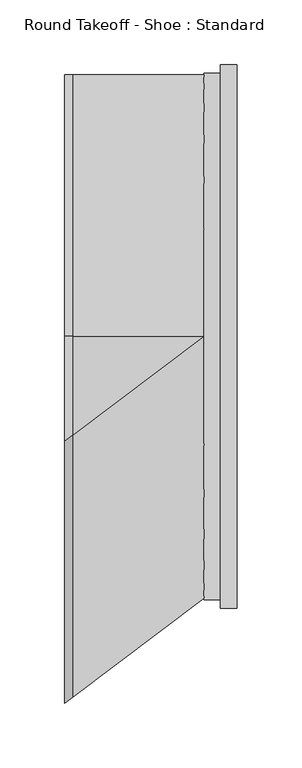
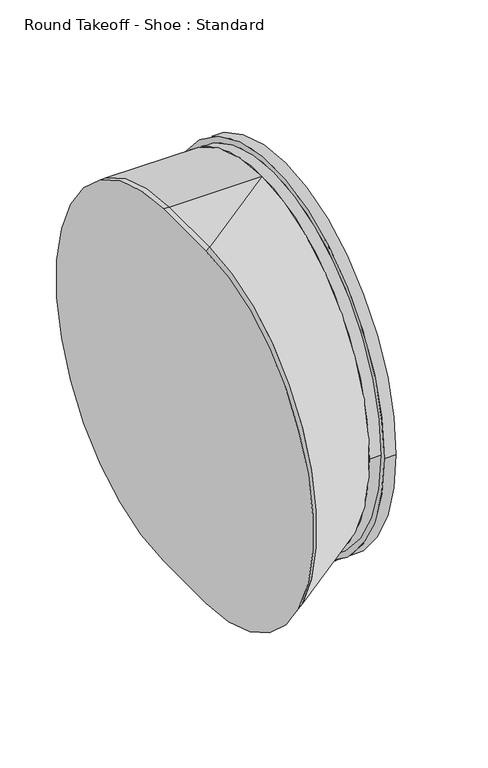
"""IFC4 building model written with IfcOpenShell, lengths in millimetres: duct fitting geometry, Round Takeoff - Shoe : Standard."""

from ifc_helpers import new_model, si_unit, point, frame, origin, place, context, project, spatial, circle_curve, trimmed, source, transform, mapped, element, save
from ifc_brep_helpers import plane_surface, cylinder_surface, extruded_surface, advanced_brep


def round_takeoff_shoe_standard_4355591a(model_context):
    return source(origin(), model_context, "Body", "AdvancedBrep", [
        advanced_brep(
        [(127.0, -209.55, 0.0), (127.0, 209.55, 0.0), (101.6, -203.2, 0.0), (101.6, 203.2, 0.0), (114.0743747, 203.2, 0.0), (114.0743747, -203.2, 0.0), (114.0743747, -209.55, 0.0), (114.0743747, 209.55, 0.0)],
        [
            (0, 1, circle_curve(frame((127.0, 0.0, 0.0), z_axis=(1.0, 0.0, 0.0), x_axis=(0.0, 1.0, 0.0)), 209.55)),
            (1, 0, circle_curve(frame((127.0, 0.0, 0.0), z_axis=(1.0, 0.0, 0.0), x_axis=(0.0, 1.0, 0.0)), 209.55)),
            (2, 3, circle_curve(frame((101.6, 0.0, 0.0), z_axis=(-1.0, 0.0, 0.0), x_axis=(0.0, 1.0, 0.0)), 203.2)),
            (3, 2, circle_curve(frame((101.6, 0.0, 0.0), z_axis=(-1.0, 0.0, 0.0), x_axis=(0.0, 1.0, 0.0)), 203.2)),
            (3, 4),
            (4, 5, circle_curve(frame((114.0743747, 0.0, 0.0), z_axis=(-1.0, 0.0, 0.0), x_axis=(0.0, 1.0, 0.0)), 203.2)),
            (5, 2),
            (5, 4, circle_curve(frame((114.0743747, 0.0, 0.0), z_axis=(-1.0, 0.0, 0.0), x_axis=(0.0, 1.0, 0.0)), 203.2)),
            (6, 7, circle_curve(frame((114.0743747, 0.0, 0.0), z_axis=(-1.0, 0.0, 0.0), x_axis=(0.0, 1.0, 0.0)), 209.55)),
            (7, 6, circle_curve(frame((114.0743747, 0.0, 0.0), z_axis=(-1.0, 0.0, 0.0), x_axis=(0.0, 1.0, 0.0)), 209.55)),
            (0, 6),
            (7, 1),
        ],
        [
            plane_surface(frame((127.0, 203.2, 0.0), z_axis=(1.0, 0.0, 0.0), x_axis=(0.0, 0.0, 1.0))),
            plane_surface(frame((101.6, 203.2, 0.0), z_axis=(-1.0, 0.0, 0.0), x_axis=(0.0, 0.0, -1.0))),
            cylinder_surface(frame((101.6, 0.0, 0.0), z_axis=(1.0, 0.0, 0.0), x_axis=(0.0, 1.0, 0.0)), 203.2),
            plane_surface(frame((114.0743747, 209.55, 0.0), z_axis=(-1.0, 0.0, 0.0), x_axis=(0.0, 0.0, -1.0))),
            cylinder_surface(frame((114.0743747, 0.0, 0.0), z_axis=(1.0, 0.0, 0.0), x_axis=(0.0, 1.0, 0.0)), 209.55),
        ],
        [
            (0, [[1, 2]]),
            (1, [[3, 4]]),
            (2, [[-4, 5, 6, 7]]),
            (2, [[-3, -7, 8, -5]]),
            (3, [[9, 10], [-6, -8]]),
            (4, [[-1, 11, -10, 12]]),
            (4, [[-2, -12, -9, -11]]),
        ],
    ),
        advanced_brep(
        [(-6.096, 0.0, -203.2), (-6.096, -80.772, -203.2), (-6.096, -80.772, 203.2), (-6.096, 0.0, 203.2), (0.0, 0.0, -203.2), (0.0, 0.0, 203.2), (0.0, -76.2, 203.2), (0.0, -76.2, -203.2)],
        [
            (0, 1),
            (1, 2, circle_curve(frame((-6.096, -80.772, 0.0), z_axis=(-1.0, 0.0, 0.0), x_axis=(0.0, 1.0, 0.0)), 203.2)),
            (2, 3),
            (3, 0, circle_curve(frame((-6.096, 0.0, 0.0), z_axis=(-1.0, 0.0, 0.0), x_axis=(0.0, 1.0, 0.0)), 203.2)),
            (4, 5, circle_curve(frame((0.0, 0.0, 0.0), z_axis=(1.0, 0.0, 0.0), x_axis=(0.0, 1.0, 0.0)), 203.2)),
            (5, 6),
            (6, 7, circle_curve(frame((0.0, -76.2, 0.0), z_axis=(1.0, 0.0, 0.0), x_axis=(0.0, 1.0, 0.0)), 203.2)),
            (7, 4),
            (7, 1),
            (0, 4),
            (6, 2),
            (5, 3),
        ],
        [
            plane_surface(frame((-6.096, -40.386, 0.0), z_axis=(-1.0, 0.0, 0.0), x_axis=(0.0, 1.0, 0.0))),
            plane_surface(frame((0.0, -38.1, 0.0), z_axis=(1.0, 0.0, 0.0), x_axis=(0.0, 1.0, 0.0))),
            plane_surface(frame((0.0, -38.1, -203.2), z_axis=(0.0, 0.0, -1.0), x_axis=(0.0, -1.0, 0.0))),
            extruded_surface(trimmed(circle_curve(frame((0.0, -76.2, 0.0), z_axis=(-1.0, 0.0, 0.0), x_axis=(0.0, 1.0, 0.0)), 203.2), [point((0.0, -76.2, -203.2))], [point((0.0, -76.2, 203.2))], True, "CARTESIAN"), (-6.096, -4.572000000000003, 0.0), 7.620000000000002),
            plane_surface(frame((0.0, -38.1, 203.2), z_axis=(0.0, 0.0, 1.0), x_axis=(0.0, 1.0, 0.0))),
            cylinder_surface(frame((0.0, 0.0, 0.0), z_axis=(-1.0, 0.0, 0.0), x_axis=(0.0, 1.0, 0.0)), 203.2),
        ],
        [
            (0, [[1, 2, 3, 4]]),
            (1, [[5, 6, 7, 8]]),
            (2, [[-8, 9, -1, 10]]),
            (3, [[-7, 11, -2, -9]]),
            (4, [[-6, 12, -3, -11]]),
            (5, [[-5, -10, -4, -12]]),
        ],
    ),
        advanced_brep(
        [(101.6, 0.0, -203.2), (101.6, 0.0, 203.2), (0.0, 0.0, -203.2), (0.0, -76.2, -203.2), (0.0, -76.2, 203.2), (0.0, 0.0, 203.2)],
        [
            (0, 1, circle_curve(frame((101.6, 0.0, 0.0), z_axis=(1.0, 0.0, 0.0), x_axis=(0.0, 1.0, 0.0)), 203.2)),
            (1, 0, circle_curve(frame((101.6, 0.0, 0.0), z_axis=(1.0, 0.0, 0.0), x_axis=(0.0, 1.0, 0.0)), 203.2)),
            (2, 3),
            (3, 4, circle_curve(frame((0.0, -76.2, 0.0), z_axis=(-1.0, 0.0, 0.0), x_axis=(0.0, 1.0, 0.0)), 203.2)),
            (4, 5),
            (5, 2, circle_curve(frame((0.0, 0.0, 0.0), z_axis=(-1.0, 0.0, 0.0), x_axis=(0.0, 1.0, 0.0)), 203.2)),
            (5, 1),
            (0, 2),
            (4, 1),
            (3, 0),
        ],
        [
            plane_surface(frame((101.6, 0.0, 0.0), z_axis=(1.0, 0.0, 0.0), x_axis=(0.0, 1.0, 0.0))),
            plane_surface(frame((0.0, -38.1, 0.0), z_axis=(-1.0, 0.0, 0.0), x_axis=(0.0, 1.0, 0.0))),
            cylinder_surface(frame((0.0, 0.0, 0.0), z_axis=(1.0, 0.0, 0.0), x_axis=(0.0, 1.0, 0.0)), 203.2),
            plane_surface(frame((0.0, -38.1, 203.2), z_axis=(0.0, 0.0, 1.0), x_axis=(0.0, -1.0, 0.0))),
            extruded_surface(trimmed(circle_curve(frame((0.0, -76.2, 0.0), z_axis=(1.0, 0.0, 0.0), x_axis=(0.0, 1.0, 0.0)), 203.2), [point((0.0, -76.2, 203.2))], [point((0.0, -76.2, -203.2))], True, "CARTESIAN"), (101.6, 76.2, 0.0), 127.0),
            plane_surface(frame((0.0, -38.1, -203.2), z_axis=(0.0, 0.0, -1.0), x_axis=(0.0, 1.0, 0.0))),
        ],
        [
            (0, [[1, 2]]),
            (1, [[3, 4, 5, 6]]),
            (2, [[-6, 7, -1, 8]]),
            (3, [[-5, 9, -7]]),
            (4, [[-4, 10, -2, -9]]),
            (5, [[-3, -8, -10]]),
        ],
    ),
    ])


if __name__ == "__main__":
    model = new_model("IFC4")
    model_context = context("Model", 3, world=origin())
    ifc_project = project(units=[si_unit("LENGTHUNIT", "METRE", prefix="MILLI")], contexts=[model_context])
    site = spatial("IfcSite", under=ifc_project)
    building = spatial("IfcBuilding", under=site)
    placement = place(None, origin())
    round_takeoff_shoe_standard_shape = round_takeoff_shoe_standard_4355591a(model_context)
    element("IfcDuctFitting", 1, ObjectType="Round Takeoff - Shoe : Standard", at=placement, inside=building, context=model_context, shape_type="MappedRepresentation", body=[
        mapped(round_takeoff_shoe_standard_shape, transform((0.0, 0.0, 0.0), x_axis=(1.0, 0.0, 0.0), y_axis=(0.0, 1.0, 0.0), z_axis=(0.0, 0.0, 1.0))),
    ])
    save(model, "model.ifc")
